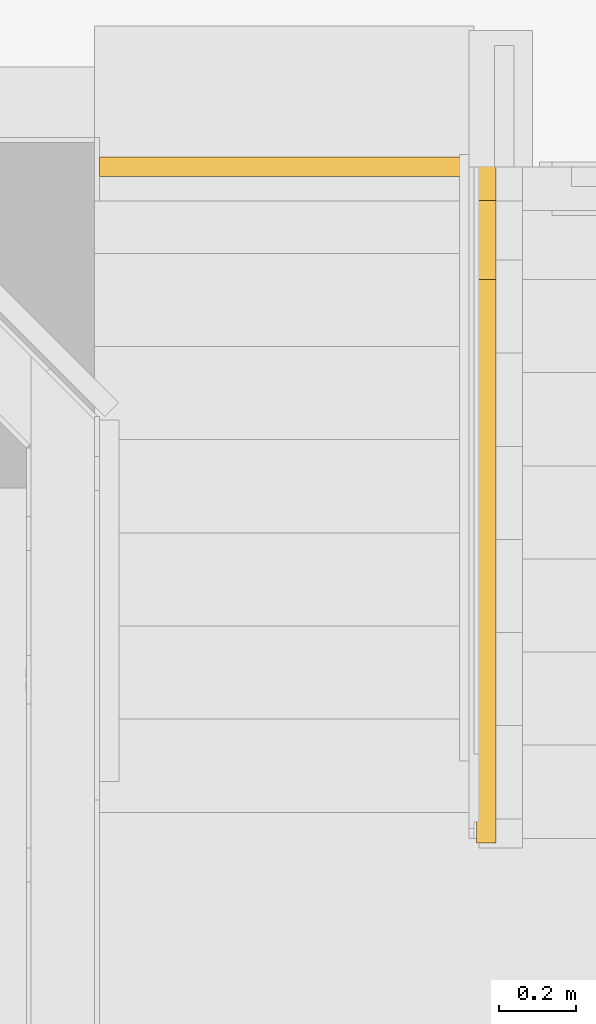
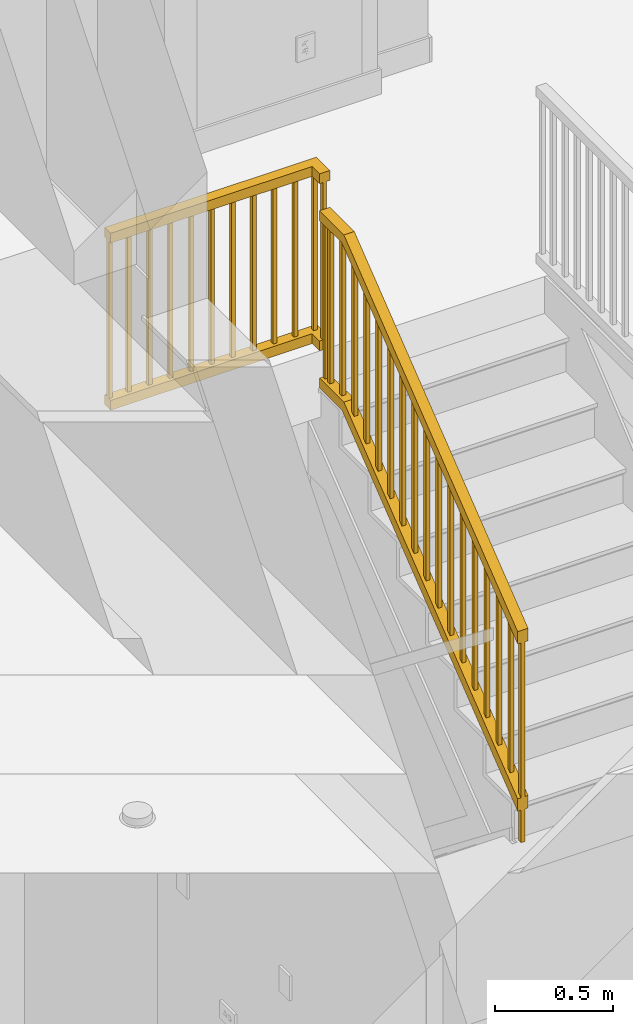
# One storey, part 35 of 81: 2 railings, 1 element without a shape of its own.
"""IFC2X3 building model written with IfcOpenShell, lengths in feet."""

from ifc_helpers import new_model, entity, si_unit, converted_unit, derived_unit, direction, frame, origin, place, context, subcontext, project, spatial, faceted_brep, material, element, aggregate, save


model = new_model("IFC2X3")

# Units and contexts
model_context = context("Model", 3, precision=0.0001, world=origin(), true_north=direction((6.12303176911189e-17, 1.0)))
body_context = subcontext(model_context, "Body", "Model", "MODEL_VIEW")
ifc_project = project(units=[converted_unit("LENGTHUNIT", "FOOT", entity("IfcRatioMeasure", 0.3048), si_unit("LENGTHUNIT", "METRE"), dimensions=[1, 0, 0, 0, 0, 0, 0]), converted_unit("AREAUNIT", "SQUARE FOOT", entity("IfcRatioMeasure", 0.09290304), si_unit("AREAUNIT", "SQUARE_METRE"), dimensions=[2, 0, 0, 0, 0, 0, 0]), converted_unit("VOLUMEUNIT", "CUBIC FOOT", entity("IfcRatioMeasure", 0.028316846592), si_unit("VOLUMEUNIT", "CUBIC_METRE"), dimensions=[3, 0, 0, 0, 0, 0, 0]), converted_unit("PLANEANGLEUNIT", "DEGREE", entity("IfcRatioMeasure", 0.0174532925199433), si_unit("PLANEANGLEUNIT", "RADIAN"), dimensions=[0, 0, 0, 0, 0, 0, 0]), si_unit("MASSUNIT", "GRAM", prefix="KILO"), derived_unit("MASSDENSITYUNIT", [(si_unit("MASSUNIT", "GRAM", prefix="KILO"), 1), (si_unit("LENGTHUNIT", "METRE"), -3)]), derived_unit("MOMENTOFINERTIAUNIT", [(si_unit("LENGTHUNIT", "METRE"), 4)]), si_unit("TIMEUNIT", "SECOND"), si_unit("FREQUENCYUNIT", "HERTZ"), si_unit("THERMODYNAMICTEMPERATUREUNIT", "DEGREE_CELSIUS"), derived_unit("THERMALTRANSMITTANCEUNIT", [(si_unit("MASSUNIT", "GRAM", prefix="KILO"), 1), (si_unit("THERMODYNAMICTEMPERATUREUNIT", "KELVIN"), -1), (si_unit("TIMEUNIT", "SECOND"), -3)]), derived_unit("VOLUMETRICFLOWRATEUNIT", [(si_unit("LENGTHUNIT", "METRE"), 3), (si_unit("TIMEUNIT", "SECOND"), -1)]), si_unit("ELECTRICCURRENTUNIT", "AMPERE"), si_unit("ELECTRICVOLTAGEUNIT", "VOLT"), si_unit("POWERUNIT", "WATT"), si_unit("FORCEUNIT", "NEWTON"), si_unit("ILLUMINANCEUNIT", "LUX"), si_unit("LUMINOUSFLUXUNIT", "LUMEN"), si_unit("LUMINOUSINTENSITYUNIT", "CANDELA"), derived_unit("USERDEFINED", [(si_unit("MASSUNIT", "GRAM", prefix="KILO"), -1), (si_unit("LENGTHUNIT", "METRE"), -2), (si_unit("TIMEUNIT", "SECOND"), 3), (si_unit("LUMINOUSFLUXUNIT", "LUMEN"), 1)]), derived_unit("LINEARVELOCITYUNIT", [(si_unit("LENGTHUNIT", "METRE"), 1), (si_unit("TIMEUNIT", "SECOND"), -1)]), si_unit("PRESSUREUNIT", "PASCAL"), derived_unit("USERDEFINED", [(si_unit("LENGTHUNIT", "METRE"), -2), (si_unit("MASSUNIT", "GRAM", prefix="KILO"), 1), (si_unit("TIMEUNIT", "SECOND"), -2)]), derived_unit("LINEARFORCEUNIT", [(si_unit("MASSUNIT", "GRAM", prefix="KILO"), 1), (si_unit("LENGTHUNIT", "METRE"), 1), (si_unit("TIMEUNIT", "SECOND"), -2), (si_unit("LENGTHUNIT", "METRE"), -1)]), derived_unit("PLANARFORCEUNIT", [(si_unit("MASSUNIT", "GRAM", prefix="KILO"), 1), (si_unit("LENGTHUNIT", "METRE"), 1), (si_unit("TIMEUNIT", "SECOND"), -2), (si_unit("LENGTHUNIT", "METRE"), -2)])], contexts=[model_context])

# Site, building, storey
site_placement = place(None, origin())
site = spatial("IfcSite", under=ifc_project, at=site_placement, Name="Default", CompositionType="ELEMENT")
building_placement = place(site_placement, origin())
building = spatial("IfcBuilding", under=site, at=building_placement, CompositionType="ELEMENT")
storey_placement = place(building_placement, origin())
storey = spatial("IfcBuildingStorey", under=building, at=storey_placement, Name="First floor", CompositionType="ELEMENT", Elevation=0.0)

# Stair, railing
stair_placement = place(storey_placement, origin())
stair = element("IfcStair", 1, at=stair_placement, inside=storey, Name="Assembled Stair:Stair", ObjectType="Assembled Stair:Stair_2018", ShapeType="NOTDEFINED")
ifc_material = material(Name="Default New Material")
railing_1_placement = place(stair_placement, frame((16.7289922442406, 5.21135758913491, 5.6484375)))
railing_1 = element("IfcRailing", 2, at=railing_1_placement, material=ifc_material, Name="Railing:Railing_1.3 2", ObjectType="Railing:Railing_1.3 2", PredefinedType="NOTDEFINED", context=body_context, shape_type="Brep", body=[
    faceted_brep([(0.114583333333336, 5.30208333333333, 7.2265625), (0.0520833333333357, 5.30208333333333, 7.2265625), (0.0520833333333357, 5.30208333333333, 4.55989583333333), (0.114583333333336, 5.30208333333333, 4.55989583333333), (0.114583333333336, 5.36458333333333, 7.2265625), (0.114583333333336, 5.36458333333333, 4.55989583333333), (0.0520833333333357, 5.36458333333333, 7.2265625), (0.0520833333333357, 5.36458333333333, 4.55989583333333)], [[[0, 1, 2, 3]], [[4, 0, 3, 5]], [[6, 4, 5, 7]], [[1, 6, 7, 2]], [[1, 0, 4, 6]], [[3, 2, 7, 5]]]),
    faceted_brep([(0.114583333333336, 4.96875, 7.2265625), (0.0520833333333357, 4.96875, 7.2265625), (0.0520833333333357, 4.96875, 4.55989583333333), (0.114583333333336, 4.96875, 4.55989583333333), (0.114583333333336, 5.03125, 7.2265625), (0.114583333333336, 5.03125, 4.55989583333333), (0.0520833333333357, 5.03125, 7.2265625), (0.0520833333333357, 5.03125, 4.55989583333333)], [[[0, 1, 2, 3]], [[4, 0, 3, 5]], [[6, 4, 5, 7]], [[1, 6, 7, 2]], [[1, 0, 4, 6]], [[3, 2, 7, 5]]]),
    faceted_brep([(0.114583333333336, 4.63541666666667, 7.03248729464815), (0.0520833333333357, 4.63541666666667, 7.03248729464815), (0.0520833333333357, 4.63541666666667, 4.4112289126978), (0.114583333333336, 4.63541666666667, 4.4112289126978), (0.114583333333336, 4.69791666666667, 7.08166523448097), (0.114583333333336, 4.69791666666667, 4.46040685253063), (0.0520833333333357, 4.69791666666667, 7.08166523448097), (0.0520833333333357, 4.69791666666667, 4.46040685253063)], [[[0, 1, 2, 3]], [[4, 0, 3, 5]], [[6, 4, 5, 7]], [[1, 6, 7, 2]], [[1, 0, 4, 6]], [[3, 2, 7, 5]]]),
    faceted_brep([(0.114583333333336, 4.30208333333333, 6.77020494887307), (0.0520833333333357, 4.30208333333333, 6.77020494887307), (0.0520833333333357, 4.30208333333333, 4.14894656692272), (0.114583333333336, 4.30208333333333, 4.14894656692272), (0.114583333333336, 4.36458333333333, 6.81938288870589), (0.114583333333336, 4.36458333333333, 4.19812450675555), (0.0520833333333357, 4.36458333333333, 6.81938288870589), (0.0520833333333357, 4.36458333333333, 4.19812450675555)], [[[0, 1, 2, 3]], [[4, 0, 3, 5]], [[6, 4, 5, 7]], [[1, 6, 7, 2]], [[1, 0, 4, 6]], [[3, 2, 7, 5]]]),
    faceted_brep([(0.114583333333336, 3.96875, 6.50792260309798), (0.0520833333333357, 3.96875, 6.50792260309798), (0.0520833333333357, 3.96875, 3.88666422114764), (0.114583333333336, 3.96875, 3.88666422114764), (0.114583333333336, 4.03125, 6.55710054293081), (0.114583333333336, 4.03125, 3.93584216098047), (0.0520833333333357, 4.03125, 6.55710054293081), (0.0520833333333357, 4.03125, 3.93584216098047)], [[[0, 1, 2, 3]], [[4, 0, 3, 5]], [[6, 4, 5, 7]], [[1, 6, 7, 2]], [[1, 0, 4, 6]], [[3, 2, 7, 5]]]),
    faceted_brep([(0.114583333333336, 3.63541666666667, 6.2456402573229), (0.0520833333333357, 3.63541666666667, 6.2456402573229), (0.0520833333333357, 3.63541666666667, 3.62438187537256), (0.114583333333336, 3.63541666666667, 3.62438187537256), (0.114583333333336, 3.69791666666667, 6.29481819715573), (0.114583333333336, 3.69791666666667, 3.67355981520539), (0.0520833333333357, 3.69791666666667, 6.29481819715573), (0.0520833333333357, 3.69791666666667, 3.67355981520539)], [[[0, 1, 2, 3]], [[4, 0, 3, 5]], [[6, 4, 5, 7]], [[1, 6, 7, 2]], [[1, 0, 4, 6]], [[3, 2, 7, 5]]]),
    faceted_brep([(0.114583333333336, 3.30208333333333, 5.98335791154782), (0.0520833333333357, 3.30208333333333, 5.98335791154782), (0.0520833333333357, 3.30208333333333, 3.36209952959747), (0.114583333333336, 3.30208333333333, 3.36209952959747), (0.114583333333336, 3.36458333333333, 6.03253585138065), (0.114583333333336, 3.36458333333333, 3.4112774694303), (0.0520833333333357, 3.36458333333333, 6.03253585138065), (0.0520833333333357, 3.36458333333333, 3.4112774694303)], [[[0, 1, 2, 3]], [[4, 0, 3, 5]], [[6, 4, 5, 7]], [[1, 6, 7, 2]], [[1, 0, 4, 6]], [[3, 2, 7, 5]]]),
    faceted_brep([(0.114583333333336, 2.96875, 5.72107556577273), (0.0520833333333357, 2.96875, 5.72107556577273), (0.0520833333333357, 2.96875, 3.09981718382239), (0.114583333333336, 2.96875, 3.09981718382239), (0.114583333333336, 3.03125, 5.77025350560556), (0.114583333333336, 3.03125, 3.14899512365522), (0.0520833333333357, 3.03125, 5.77025350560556), (0.0520833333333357, 3.03125, 3.14899512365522)], [[[0, 1, 2, 3]], [[4, 0, 3, 5]], [[6, 4, 5, 7]], [[1, 6, 7, 2]], [[1, 0, 4, 6]], [[3, 2, 7, 5]]]),
    faceted_brep([(0.114583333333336, 2.63541666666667, 5.45879321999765), (0.0520833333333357, 2.63541666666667, 5.45879321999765), (0.0520833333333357, 2.63541666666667, 2.83753483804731), (0.114583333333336, 2.63541666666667, 2.83753483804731), (0.114583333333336, 2.69791666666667, 5.50797115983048), (0.114583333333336, 2.69791666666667, 2.88671277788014), (0.0520833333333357, 2.69791666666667, 5.50797115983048), (0.0520833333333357, 2.69791666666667, 2.88671277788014)], [[[0, 1, 2, 3]], [[4, 0, 3, 5]], [[6, 4, 5, 7]], [[1, 6, 7, 2]], [[1, 0, 4, 6]], [[3, 2, 7, 5]]]),
    faceted_brep([(0.114583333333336, 2.30208333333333, 5.19651087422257), (0.0520833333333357, 2.30208333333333, 5.19651087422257), (0.0520833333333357, 2.30208333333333, 2.57525249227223), (0.114583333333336, 2.30208333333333, 2.57525249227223), (0.114583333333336, 2.36458333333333, 5.2456888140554), (0.114583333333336, 2.36458333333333, 2.62443043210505), (0.0520833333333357, 2.36458333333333, 5.2456888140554), (0.0520833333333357, 2.36458333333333, 2.62443043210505)], [[[0, 1, 2, 3]], [[4, 0, 3, 5]], [[6, 4, 5, 7]], [[1, 6, 7, 2]], [[1, 0, 4, 6]], [[3, 2, 7, 5]]]),
    faceted_brep([(0.114583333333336, 1.96875, 4.93422852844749), (0.0520833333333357, 1.96875, 4.93422852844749), (0.0520833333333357, 1.96875, 2.31297014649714), (0.114583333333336, 1.96875, 2.31297014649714), (0.114583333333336, 2.03125, 4.98340646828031), (0.114583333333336, 2.03125, 2.36214808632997), (0.0520833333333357, 2.03125, 4.98340646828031), (0.0520833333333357, 2.03125, 2.36214808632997)], [[[0, 1, 2, 3]], [[4, 0, 3, 5]], [[6, 4, 5, 7]], [[1, 6, 7, 2]], [[1, 0, 4, 6]], [[3, 2, 7, 5]]]),
    faceted_brep([(0.114583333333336, 1.63541666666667, 4.6719461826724), (0.0520833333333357, 1.63541666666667, 4.6719461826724), (0.0520833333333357, 1.63541666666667, 2.05068780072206), (0.114583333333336, 1.63541666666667, 2.05068780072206), (0.114583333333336, 1.69791666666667, 4.72112412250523), (0.114583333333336, 1.69791666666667, 2.09986574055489), (0.0520833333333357, 1.69791666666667, 4.72112412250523), (0.0520833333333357, 1.69791666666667, 2.09986574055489)], [[[0, 1, 2, 3]], [[4, 0, 3, 5]], [[6, 4, 5, 7]], [[1, 6, 7, 2]], [[1, 0, 4, 6]], [[3, 2, 7, 5]]]),
    faceted_brep([(0.114583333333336, 1.30208333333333, 4.40966383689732), (0.0520833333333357, 1.30208333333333, 4.40966383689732), (0.0520833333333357, 1.30208333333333, 1.78840545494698), (0.114583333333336, 1.30208333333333, 1.78840545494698), (0.114583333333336, 1.36458333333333, 4.45884177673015), (0.114583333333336, 1.36458333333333, 1.83758339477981), (0.0520833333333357, 1.36458333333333, 4.45884177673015), (0.0520833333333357, 1.36458333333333, 1.83758339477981)], [[[0, 1, 2, 3]], [[4, 0, 3, 5]], [[6, 4, 5, 7]], [[1, 6, 7, 2]], [[1, 0, 4, 6]], [[3, 2, 7, 5]]]),
    faceted_brep([(0.114583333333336, 0.968750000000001, 4.14738149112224), (0.0520833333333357, 0.968750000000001, 4.14738149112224), (0.0520833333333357, 0.968750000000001, 1.52612310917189), (0.114583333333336, 0.968750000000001, 1.52612310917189), (0.114583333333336, 1.03125, 4.19655943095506), (0.114583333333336, 1.03125, 1.57530104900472), (0.0520833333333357, 1.03125, 4.19655943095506), (0.0520833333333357, 1.03125, 1.57530104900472)], [[[0, 1, 2, 3]], [[4, 0, 3, 5]], [[6, 4, 5, 7]], [[1, 6, 7, 2]], [[1, 0, 4, 6]], [[3, 2, 7, 5]]]),
    faceted_brep([(0.114583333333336, 0.635416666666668, 3.88509914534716), (0.0520833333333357, 0.635416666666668, 3.88509914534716), (0.0520833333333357, 0.635416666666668, 1.26384076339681), (0.114583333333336, 0.635416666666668, 1.26384076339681), (0.114583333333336, 0.697916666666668, 3.93427708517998), (0.114583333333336, 0.697916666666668, 1.31301870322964), (0.0520833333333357, 0.697916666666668, 3.93427708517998), (0.0520833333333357, 0.697916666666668, 1.31301870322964)], [[[0, 1, 2, 3]], [[4, 0, 3, 5]], [[6, 4, 5, 7]], [[1, 6, 7, 2]], [[1, 0, 4, 6]], [[3, 2, 7, 5]]]),
    faceted_brep([(0.114583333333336, 0.302083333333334, 3.62281679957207), (0.0520833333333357, 0.302083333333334, 3.62281679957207), (0.0520833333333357, 0.302083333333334, 1.00155841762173), (0.114583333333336, 0.302083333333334, 1.00155841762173), (0.114583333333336, 0.364583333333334, 3.6719947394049), (0.114583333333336, 0.364583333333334, 1.05073635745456), (0.0520833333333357, 0.364583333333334, 3.6719947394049), (0.0520833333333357, 0.364583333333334, 1.05073635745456)], [[[0, 1, 2, 3]], [[4, 0, 3, 5]], [[6, 4, 5, 7]], [[1, 6, 7, 2]], [[1, 0, 4, 6]], [[3, 2, 7, 5]]]),
    faceted_brep([(0.114583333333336, 5.4375, 7.2265625), (0.0520833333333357, 5.4375, 7.2265625), (0.0520833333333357, 5.4375, 4.39322916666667), (0.114583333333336, 5.4375, 4.39322916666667), (0.114583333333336, 5.5, 7.2265625), (0.114583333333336, 5.5, 4.39322916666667), (0.0520833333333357, 5.5, 7.2265625), (0.0520833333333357, 5.5, 4.39322916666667)], [[[0, 1, 2, 3]], [[4, 0, 3, 5]], [[6, 4, 5, 7]], [[1, 6, 7, 2]], [[1, 0, 4, 6]], [[3, 2, 7, 5]]]),
    faceted_brep([(0.114583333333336, 0.0, 3.3851234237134), (0.0520833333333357, 0.0, 3.3851234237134), (0.0520833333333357, 0.0, 0.0), (0.114583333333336, 0.0, 0.0), (0.114583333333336, 0.0625000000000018, 3.43430136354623), (0.114583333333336, 0.0625000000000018, 0.0), (0.0520833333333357, 0.0625000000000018, 3.43430136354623), (0.0520833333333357, 0.0625000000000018, 0.0)], [[[0, 1, 2, 3]], [[4, 0, 3, 5]], [[6, 4, 5, 7]], [[1, 6, 7, 2]], [[1, 0, 4, 6]], [[3, 2, 7, 5]]]),
    faceted_brep([(0.166666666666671, 0.0, 0.763865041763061), (0.0, 0.0, 0.763865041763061), (0.0, 0.0, 0.551790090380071), (0.166666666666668, 0.0, 0.55179009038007), (0.166666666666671, 4.82435671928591, 4.55989583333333), (0.0, 4.82435671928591, 4.55989583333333), (0.0, 4.88206588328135, 4.39322916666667), (0.166666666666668, 4.88206588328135, 4.39322916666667), (0.166666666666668, 5.5, 4.55989583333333), (0.166666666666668, 5.5, 4.39322916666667), (0.0, 5.5, 4.39322916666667), (0.0, 5.5, 4.55989583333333)], [[[0, 1, 2, 3]], [[1, 0, 4, 5]], [[2, 1, 5, 6]], [[3, 2, 6, 7]], [[0, 3, 7, 4]], [[8, 9, 10, 11]], [[5, 4, 8, 11]], [[6, 5, 11, 10]], [[7, 6, 10, 9]], [[4, 7, 9, 8]]]),
    faceted_brep([(0.0, 0.0, 3.5971983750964), (0.0, 0.0, 3.3851234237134), (0.166666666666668, 0.0, 3.3851234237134), (0.166666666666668, 0.0, 3.5971983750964), (0.0, 4.82435671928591, 7.39322916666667), (0.0, 4.88206588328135, 7.2265625), (0.166666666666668, 4.88206588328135, 7.2265625), (0.166666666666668, 4.82435671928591, 7.39322916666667), (0.0, 5.5, 7.39322916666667), (0.166666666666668, 5.5, 7.39322916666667), (0.166666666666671, 5.5, 7.2265625), (0.0, 5.5, 7.2265625)], [[[0, 1, 2, 3]], [[1, 0, 4, 5]], [[2, 1, 5, 6]], [[3, 2, 6, 7]], [[0, 3, 7, 4]], [[8, 9, 10, 11]], [[5, 4, 8, 11]], [[6, 5, 11, 10]], [[7, 6, 10, 9]], [[4, 7, 9, 8]]]),
])
aggregate(stair, [railing_1])

# Railing
railing_2_placement = place(storey_placement, frame((13.5, 10.7113575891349, 10.6666666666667)))
element("IfcRailing", 3, at=railing_2_placement, inside=storey, material=ifc_material, Name="Railing:Railing_1.3 2", ObjectType="Railing:Railing_1.3 2", PredefinedType="NOTDEFINED", context=body_context, shape_type="Brep", body=[
    faceted_brep([(2.96875, 0.257392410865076, 2.83333333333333), (2.96875, 0.319892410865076, 2.83333333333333), (2.96875, 0.319892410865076, 0.166666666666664), (2.96875, 0.257392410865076, 0.166666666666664), (3.03125, 0.257392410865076, 2.83333333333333), (3.03125, 0.257392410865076, 0.166666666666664), (3.03125, 0.319892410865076, 2.83333333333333), (3.03125, 0.319892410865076, 0.166666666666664)], [[[0, 1, 2, 3]], [[4, 0, 3, 5]], [[6, 4, 5, 7]], [[1, 6, 7, 2]], [[1, 0, 4, 6]], [[3, 2, 7, 5]]]),
    faceted_brep([(2.63541666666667, 0.257392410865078, 2.83333333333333), (2.63541666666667, 0.319892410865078, 2.83333333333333), (2.63541666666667, 0.319892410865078, 0.166666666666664), (2.63541666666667, 0.257392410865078, 0.166666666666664), (2.69791666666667, 0.257392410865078, 2.83333333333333), (2.69791666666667, 0.257392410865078, 0.166666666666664), (2.69791666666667, 0.319892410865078, 2.83333333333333), (2.69791666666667, 0.319892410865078, 0.166666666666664)], [[[0, 1, 2, 3]], [[4, 0, 3, 5]], [[6, 4, 5, 7]], [[1, 6, 7, 2]], [[1, 0, 4, 6]], [[3, 2, 7, 5]]]),
    faceted_brep([(2.30208333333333, 0.25739241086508, 2.83333333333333), (2.30208333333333, 0.31989241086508, 2.83333333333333), (2.30208333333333, 0.31989241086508, 0.166666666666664), (2.30208333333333, 0.25739241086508, 0.166666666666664), (2.36458333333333, 0.25739241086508, 2.83333333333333), (2.36458333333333, 0.25739241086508, 0.166666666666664), (2.36458333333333, 0.31989241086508, 2.83333333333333), (2.36458333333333, 0.31989241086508, 0.166666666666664)], [[[0, 1, 2, 3]], [[4, 0, 3, 5]], [[6, 4, 5, 7]], [[1, 6, 7, 2]], [[1, 0, 4, 6]], [[3, 2, 7, 5]]]),
    faceted_brep([(1.96875, 0.257392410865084, 2.83333333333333), (1.96875, 0.319892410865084, 2.83333333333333), (1.96875, 0.319892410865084, 0.166666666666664), (1.96875, 0.257392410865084, 0.166666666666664), (2.03125, 0.257392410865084, 2.83333333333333), (2.03125, 0.257392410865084, 0.166666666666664), (2.03125, 0.319892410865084, 2.83333333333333), (2.03125, 0.319892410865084, 0.166666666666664)], [[[0, 1, 2, 3]], [[4, 0, 3, 5]], [[6, 4, 5, 7]], [[1, 6, 7, 2]], [[1, 0, 4, 6]], [[3, 2, 7, 5]]]),
    faceted_brep([(1.63541666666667, 0.257392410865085, 2.83333333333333), (1.63541666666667, 0.319892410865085, 2.83333333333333), (1.63541666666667, 0.319892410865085, 0.166666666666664), (1.63541666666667, 0.257392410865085, 0.166666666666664), (1.69791666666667, 0.257392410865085, 2.83333333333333), (1.69791666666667, 0.257392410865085, 0.166666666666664), (1.69791666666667, 0.319892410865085, 2.83333333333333), (1.69791666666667, 0.319892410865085, 0.166666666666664)], [[[0, 1, 2, 3]], [[4, 0, 3, 5]], [[6, 4, 5, 7]], [[1, 6, 7, 2]], [[1, 0, 4, 6]], [[3, 2, 7, 5]]]),
    faceted_brep([(1.30208333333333, 0.257392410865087, 2.83333333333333), (1.30208333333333, 0.319892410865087, 2.83333333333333), (1.30208333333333, 0.319892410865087, 0.166666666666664), (1.30208333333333, 0.257392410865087, 0.166666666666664), (1.36458333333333, 0.257392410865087, 2.83333333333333), (1.36458333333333, 0.257392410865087, 0.166666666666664), (1.36458333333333, 0.319892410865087, 2.83333333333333), (1.36458333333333, 0.319892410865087, 0.166666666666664)], [[[0, 1, 2, 3]], [[4, 0, 3, 5]], [[6, 4, 5, 7]], [[1, 6, 7, 2]], [[1, 0, 4, 6]], [[3, 2, 7, 5]]]),
    faceted_brep([(0.96875, 0.257392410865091, 2.83333333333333), (0.96875, 0.319892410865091, 2.83333333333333), (0.96875, 0.319892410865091, 0.166666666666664), (0.96875, 0.257392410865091, 0.166666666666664), (1.03125, 0.257392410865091, 2.83333333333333), (1.03125, 0.257392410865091, 0.166666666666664), (1.03125, 0.319892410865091, 2.83333333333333), (1.03125, 0.319892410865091, 0.166666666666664)], [[[0, 1, 2, 3]], [[4, 0, 3, 5]], [[6, 4, 5, 7]], [[1, 6, 7, 2]], [[1, 0, 4, 6]], [[3, 2, 7, 5]]]),
    faceted_brep([(0.635416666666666, 0.257392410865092, 2.83333333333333), (0.635416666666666, 0.319892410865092, 2.83333333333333), (0.635416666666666, 0.319892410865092, 0.166666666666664), (0.635416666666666, 0.257392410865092, 0.166666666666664), (0.697916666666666, 0.257392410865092, 2.83333333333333), (0.697916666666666, 0.257392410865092, 0.166666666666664), (0.697916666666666, 0.319892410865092, 2.83333333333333), (0.697916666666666, 0.319892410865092, 0.166666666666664)], [[[0, 1, 2, 3]], [[4, 0, 3, 5]], [[6, 4, 5, 7]], [[1, 6, 7, 2]], [[1, 0, 4, 6]], [[3, 2, 7, 5]]]),
    faceted_brep([(0.302083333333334, 0.257392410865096, 2.83333333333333), (0.302083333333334, 0.319892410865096, 2.83333333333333), (0.302083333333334, 0.319892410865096, 0.166666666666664), (0.302083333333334, 0.257392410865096, 0.166666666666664), (0.364583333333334, 0.257392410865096, 2.83333333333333), (0.364583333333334, 0.257392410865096, 0.166666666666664), (0.364583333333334, 0.319892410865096, 2.83333333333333), (0.364583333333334, 0.319892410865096, 0.166666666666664)], [[[0, 1, 2, 3]], [[4, 0, 3, 5]], [[6, 4, 5, 7]], [[1, 6, 7, 2]], [[1, 0, 4, 6]], [[3, 2, 7, 5]]]),
    faceted_brep([(3.28124999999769, 0.257392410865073, 2.83333333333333), (3.28124999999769, 0.319892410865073, 2.83333333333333), (3.28124999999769, 0.319892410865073, 0.166666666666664), (3.28124999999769, 0.257392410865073, 0.166666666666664), (3.34374999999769, 0.257392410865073, 2.83333333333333), (3.34374999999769, 0.257392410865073, 0.166666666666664), (3.34374999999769, 0.319892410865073, 2.83333333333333), (3.34374999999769, 0.319892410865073, 0.166666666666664)], [[[0, 1, 2, 3]], [[4, 0, 3, 5]], [[6, 4, 5, 7]], [[1, 6, 7, 2]], [[1, 0, 4, 6]], [[3, 2, 7, 5]]]),
    faceted_brep([(3.28124999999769, 0.0625, 2.83333333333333), (3.34374999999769, 0.0625, 2.83333333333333), (3.34374999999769, 0.0625, 0.166666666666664), (3.28124999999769, 0.0625, 0.166666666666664), (3.28124999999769, 0.0, 2.83333333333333), (3.28124999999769, 0.0, 0.166666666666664), (3.34374999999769, 0.0, 2.83333333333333), (3.34374999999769, 0.0, 0.166666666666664)], [[[0, 1, 2, 3]], [[4, 0, 3, 5]], [[6, 4, 5, 7]], [[1, 6, 7, 2]], [[1, 0, 4, 6]], [[3, 2, 7, 5]]]),
    faceted_brep([(0.0, 0.257392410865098, 2.83333333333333), (0.0, 0.319892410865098, 2.83333333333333), (0.0, 0.319892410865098, 0.166666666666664), (0.0, 0.257392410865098, 0.166666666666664), (0.0625, 0.257392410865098, 2.83333333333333), (0.0625, 0.257392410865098, 0.166666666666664), (0.0625, 0.319892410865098, 2.83333333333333), (0.0625, 0.319892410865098, 0.166666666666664)], [[[0, 1, 2, 3]], [[4, 0, 3, 5]], [[6, 4, 5, 7]], [[1, 6, 7, 2]], [[1, 0, 4, 6]], [[3, 2, 7, 5]]]),
    faceted_brep([(0.0, 0.205309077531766, 0.166666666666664), (0.0, 0.371975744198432, 0.166666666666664), (0.0, 0.37197574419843, 0.0), (0.0, 0.205309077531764, 0.0), (3.22916666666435, 0.0, 0.166666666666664), (3.22916666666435, 0.0, 0.0), (3.39583333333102, 0.0, 0.0), (3.39583333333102, 0.0, 0.166666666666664), (3.22916666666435, 0.205309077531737, 0.166666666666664), (3.39583333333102, 0.371975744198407, 0.166666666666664), (3.39583333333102, 0.371975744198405, 0.0), (3.22916666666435, 0.205309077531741, 0.0)], [[[0, 1, 2, 3]], [[4, 5, 6, 7]], [[1, 0, 8, 9]], [[2, 1, 9, 10]], [[3, 2, 10, 11]], [[0, 3, 11, 8]], [[9, 8, 4, 7]], [[10, 9, 7, 6]], [[11, 10, 6, 5]], [[8, 11, 5, 4]]]),
    faceted_brep([(0.0, 0.371975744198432, 3.0), (0.0, 0.371975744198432, 2.83333333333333), (0.0, 0.205309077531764, 2.83333333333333), (0.0, 0.205309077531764, 3.0), (3.39583333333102, 0.0, 3.0), (3.22916666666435, 0.0, 3.0), (3.22916666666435, 0.0, 2.83333333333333), (3.39583333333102, 0.0, 2.83333333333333), (3.39583333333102, 0.371975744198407, 3.0), (3.39583333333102, 0.371975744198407, 2.83333333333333), (3.22916666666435, 0.205309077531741, 2.83333333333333), (3.22916666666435, 0.205309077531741, 3.0)], [[[0, 1, 2, 3]], [[4, 5, 6, 7]], [[1, 0, 8, 9]], [[2, 1, 9, 10]], [[3, 2, 10, 11]], [[0, 3, 11, 8]], [[9, 8, 4, 7]], [[10, 9, 7, 6]], [[11, 10, 6, 5]], [[8, 11, 5, 4]]]),
])

save(model, "model.ifc")
